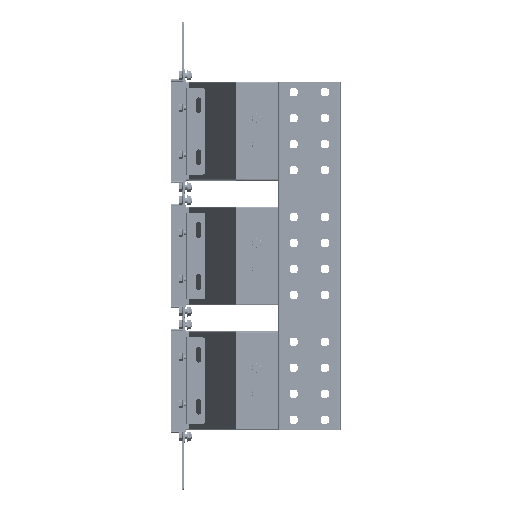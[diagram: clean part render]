
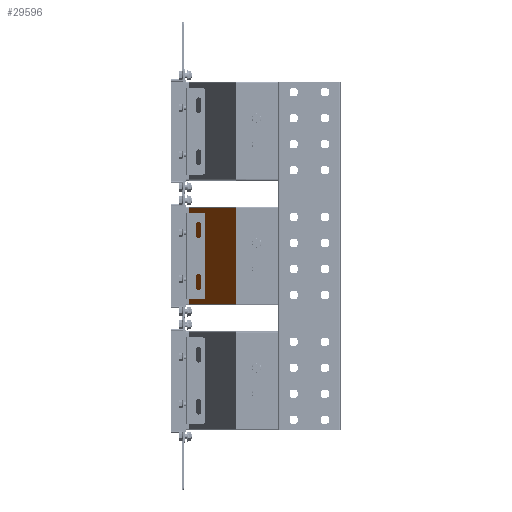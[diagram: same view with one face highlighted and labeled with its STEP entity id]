
A CAD part, front view. The second image highlights one B-rep face of the part: STEP entity #29596.
In plain terms, the highlighted planar face has unit normal (-0.916, -0.401, 0).
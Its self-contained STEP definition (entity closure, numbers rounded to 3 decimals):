
#29588=AXIS2_PLACEMENT_3D('Plane Axis2P3D',#29585,#29586,#29587) ;
#28000=CARTESIAN_POINT('Vertex',(98.202,-217.75,-92.25)) ;
#28014=CARTESIAN_POINT('Vertex',(98.202,-217.75,92.25)) ;
#28017=CARTESIAN_POINT('Line Origine',(98.202,-217.75,0.)) ;
#28802=CARTESIAN_POINT('Vertex',(8.202,-12.14,92.25)) ;
#28805=CARTESIAN_POINT('Line Origine',(52.481,-113.298,92.25)) ;
#28912=CARTESIAN_POINT('Vertex',(8.202,-12.14,-92.25)) ;
#28947=CARTESIAN_POINT('Line Origine',(52.481,-113.298,-92.25)) ;
#28989=CARTESIAN_POINT('Line Origine',(8.202,-12.14,0.)) ;
#29585=CARTESIAN_POINT('Axis2P3D Location',(98.923,-219.397,-92.25)) ;
#28018=DIRECTION('Vector Direction',(0.,0.,1.)) ;
#28806=DIRECTION('Vector Direction',(0.401,-0.916,0.)) ;
#28948=DIRECTION('Vector Direction',(0.401,-0.916,0.)) ;
#28990=DIRECTION('Vector Direction',(0.,0.,1.)) ;
#29586=DIRECTION('Axis2P3D Direction',(-0.916,-0.401,0.)) ;
#29587=DIRECTION('Axis2P3D XDirection',(0.,0.,1.)) ;
#28019=VECTOR('Line Direction',#28018,1.) ;
#28807=VECTOR('Line Direction',#28806,1.) ;
#28949=VECTOR('Line Direction',#28948,1.) ;
#28991=VECTOR('Line Direction',#28990,1.) ;
#29591=ORIENTED_EDGE('',*,*,#28809,.T.) ;
#29592=ORIENTED_EDGE('',*,*,#28993,.F.) ;
#29593=ORIENTED_EDGE('',*,*,#28951,.F.) ;
#29594=ORIENTED_EDGE('',*,*,#28021,.T.) ;
#29596=ADVANCED_FACE('N',(#29595),#29589,.T.) ;
#28021=EDGE_CURVE('',#28001,#28015,#28020,.T.) ;
#28809=EDGE_CURVE('',#28015,#28803,#28808,.F.) ;
#28951=EDGE_CURVE('',#28001,#28913,#28950,.F.) ;
#28993=EDGE_CURVE('',#28913,#28803,#28992,.T.) ;
#29590=EDGE_LOOP('',(#29591,#29592,#29593,#29594)) ;
#29595=FACE_OUTER_BOUND('',#29590,.T.) ;
#28020=LINE('Line',#28017,#28019) ;
#28808=LINE('Line',#28805,#28807) ;
#28950=LINE('Line',#28947,#28949) ;
#28992=LINE('Line',#28989,#28991) ;
#29589=PLANE('',#29588) ;
#28001=VERTEX_POINT('',#28000) ;
#28015=VERTEX_POINT('',#28014) ;
#28803=VERTEX_POINT('',#28802) ;
#28913=VERTEX_POINT('',#28912) ;
